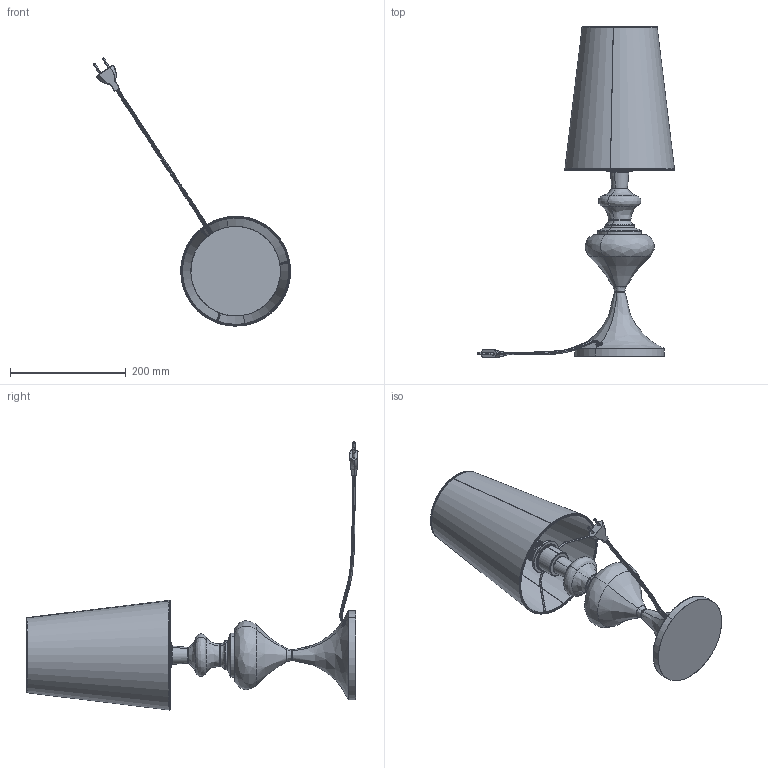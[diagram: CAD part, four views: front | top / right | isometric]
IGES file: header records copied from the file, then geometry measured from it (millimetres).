
Start section: SolidWorks IGES file using analytic representation for surfaces
Global section: file name: E:\3D lampy\Alaska\Alaska_3728.IGS; native system: SolidWorks 2016; preprocessor: SolidWorks 2016; author: Asia; date: 171016.124045; units: millimetre
Bounding box: 341.09 x 574.67 x 464.15 mm (x, y, z)
Surface area: 460282.7 mm2 (no closed solid volume)
Topology: 0 solids, 0 shells, 380 faces, 6045 edges, 6025 vertices
Faces by surface type: bspline 231, revolution 149
